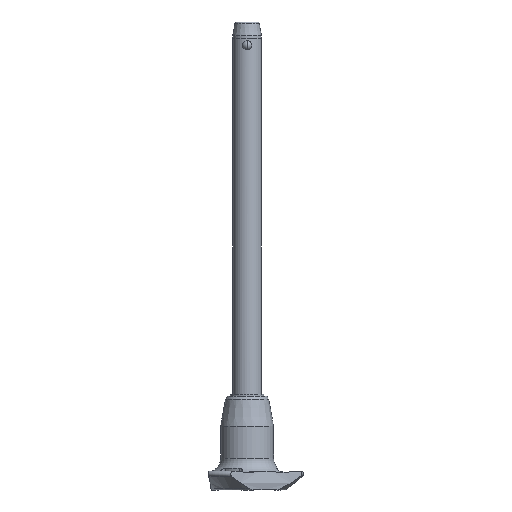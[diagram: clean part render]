
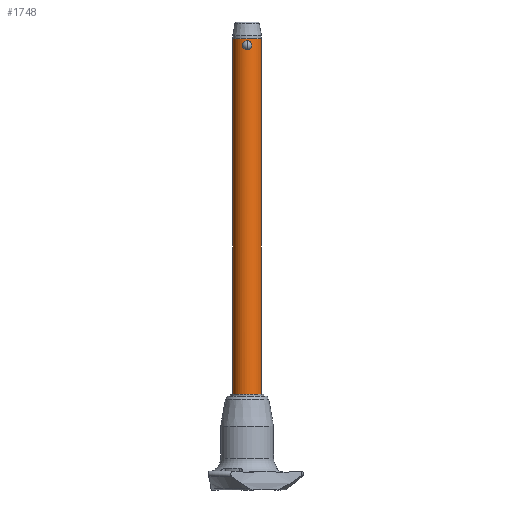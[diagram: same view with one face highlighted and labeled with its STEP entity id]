
A CAD part, front view. The second image highlights one B-rep face of the part: STEP entity #1748.
In plain terms, the highlighted cylindrical face has radius 5 mm (diameter 10 mm), a partial arc.
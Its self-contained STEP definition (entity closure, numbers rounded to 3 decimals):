
#22 = CARTESIAN_POINT ( 'NONE',  ( 0.7, -4.952, 2.888 ) ) ;
#41 = CARTESIAN_POINT ( 'NONE',  ( -0.208, -5., 3.033 ) ) ;
#72 = EDGE_LOOP ( 'NONE', ( #1115, #1305 ) ) ;
#91 = CARTESIAN_POINT ( 'NONE',  ( -0.965, -4.907, 2.738 ) ) ;
#93 = DIRECTION ( 'NONE',  ( 0., 0., 1. ) ) ;
#99 = AXIS2_PLACEMENT_3D ( 'NONE', #1899, #387, #146 ) ;
#125 = LINE ( 'NONE', #2321, #1054 ) ;
#146 = DIRECTION ( 'NONE',  ( 1., 0., 0. ) ) ;
#203 = CARTESIAN_POINT ( 'NONE',  ( 1.434, -4.79, 0.822 ) ) ;
#209 = VERTEX_POINT ( 'NONE', #1597 ) ;
#214 = CARTESIAN_POINT ( 'NONE',  ( 0.966, -4.907, 0.296 ) ) ;
#240 = EDGE_CURVE ( 'NONE', #765, #2242, #1568, .T. ) ;
#242 = CARTESIAN_POINT ( 'NONE',  ( 1.594, -4.739, 1.721 ) ) ;
#252 = CARTESIAN_POINT ( 'NONE',  ( 0., -5., 0. ) ) ;
#255 = VERTEX_POINT ( 'NONE', #252 ) ;
#256 = CARTESIAN_POINT ( 'NONE',  ( -0.699, -4.952, 0.145 ) ) ;
#262 = CIRCLE ( 'NONE', #1766, 5. ) ;
#275 = CARTESIAN_POINT ( 'NONE',  ( -1.604, -4.736, 1.724 ) ) ;
#287 = DIRECTION ( 'NONE',  ( 0., 0., 1. ) ) ;
#292 = CARTESIAN_POINT ( 'NONE',  ( -1.435, -4.79, 2.209 ) ) ;
#322 = CYLINDRICAL_SURFACE ( 'NONE', #2539, 5. ) ;
#336 = CARTESIAN_POINT ( 'NONE',  ( 0., 0., -120. ) ) ;
#387 = DIRECTION ( 'NONE',  ( 0., 0., -1. ) ) ;
#472 = CARTESIAN_POINT ( 'NONE',  ( 0.412, -4.987, 2.996 ) ) ;
#493 = CARTESIAN_POINT ( 'NONE',  ( -1.383, -4.805, 2.299 ) ) ;
#529 = CARTESIAN_POINT ( 'NONE',  ( -1.56, -4.751, 1.931 ) ) ;
#558 = EDGE_CURVE ( 'NONE', #765, #209, #833, .T. ) ;
#568 = CARTESIAN_POINT ( 'NONE',  ( 0., -5., 0. ) ) ;
#570 = EDGE_LOOP ( 'NONE', ( #1097, #2042, #1646, #1566 ) ) ;
#582 = DIRECTION ( 'NONE',  ( 0., 0., 1. ) ) ;
#654 = CARTESIAN_POINT ( 'NONE',  ( 1.272, -4.838, 2.47 ) ) ;
#662 = B_SPLINE_CURVE_WITH_KNOTS ( 'NONE', 3,
 ( #568, #2083, #1337, #1503, #1957, #214, #666, #1979, #1518, #1555, #203, #1528, #889, #1287, #242, #2809, #1297, #2370, #654, #1930, #2179, #2424, #22, #472, #2156, #1075 ),
 .UNSPECIFIED., .F., .F.,
 ( 4, 2, 2, 2, 2, 2, 2, 2, 2, 2, 2, 2, 4 ),
 ( 0.005, 0.006, 0.006, 0.006, 0.006, 0.007, 0.007, 0.008, 0.008, 0.009, 0.009, 0.009, 0.01 ),
 .UNSPECIFIED. ) ;
#666 = CARTESIAN_POINT ( 'NONE',  ( 1.047, -4.89, 0.356 ) ) ;
#687 = CARTESIAN_POINT ( 'NONE',  ( 5., 0., -120. ) ) ;
#742 = CARTESIAN_POINT ( 'NONE',  ( -0.7, -4.952, 2.888 ) ) ;
#765 = VERTEX_POINT ( 'NONE', #2707 ) ;
#768 = CARTESIAN_POINT ( 'NONE',  ( 0., -5., 3.033 ) ) ;
#833 = CIRCLE ( 'NONE', #99, 5. ) ;
#886 = EDGE_CURVE ( 'NONE', #1756, #255, #2218, .T. ) ;
#889 = CARTESIAN_POINT ( 'NONE',  ( 1.604, -4.736, 1.308 ) ) ;
#920 = CARTESIAN_POINT ( 'NONE',  ( -0.205, -5., 0. ) ) ;
#1024 = FACE_OUTER_BOUND ( 'NONE', #570, .T. ) ;
#1031 = CARTESIAN_POINT ( 'NONE',  ( 5., 0., 3.84 ) ) ;
#1054 = VECTOR ( 'NONE', #1694, 1000. ) ;
#1075 = CARTESIAN_POINT ( 'NONE',  ( 0., -5., 3.033 ) ) ;
#1097 = ORIENTED_EDGE ( 'NONE', *, *, #1463, .F. ) ;
#1115 = ORIENTED_EDGE ( 'NONE', *, *, #886, .F. ) ;
#1129 = CARTESIAN_POINT ( 'NONE',  ( -0.791, -4.938, 2.844 ) ) ;
#1146 = CARTESIAN_POINT ( 'NONE',  ( -1.197, -4.855, 2.539 ) ) ;
#1161 = CARTESIAN_POINT ( 'NONE',  ( -0.412, -4.987, 0.037 ) ) ;
#1200 = EDGE_CURVE ( 'NONE', #255, #1756, #662, .T. ) ;
#1222 = DIRECTION ( 'NONE',  ( 1., 0., 0. ) ) ;
#1287 = CARTESIAN_POINT ( 'NONE',  ( 1.604, -4.736, 1.619 ) ) ;
#1297 = CARTESIAN_POINT ( 'NONE',  ( 1.519, -4.764, 2.021 ) ) ;
#1305 = ORIENTED_EDGE ( 'NONE', *, *, #1200, .F. ) ;
#1337 = CARTESIAN_POINT ( 'NONE',  ( 0.412, -4.987, 0.037 ) ) ;
#1340 = CARTESIAN_POINT ( 'NONE',  ( -1.264, -4.838, 2.464 ) ) ;
#1356 = CARTESIAN_POINT ( 'NONE',  ( -1.594, -4.739, 1.312 ) ) ;
#1375 = CARTESIAN_POINT ( 'NONE',  ( -0.412, -4.987, 2.997 ) ) ;
#1390 = CARTESIAN_POINT ( 'NONE',  ( -1.519, -4.764, 1.013 ) ) ;
#1402 = CARTESIAN_POINT ( 'NONE',  ( 0., -5., 3.033 ) ) ;
#1418 = CARTESIAN_POINT ( 'NONE',  ( -5., 0., 3.84 ) ) ;
#1463 = EDGE_CURVE ( 'NONE', #209, #2074, #125, .T. ) ;
#1503 = CARTESIAN_POINT ( 'NONE',  ( 0.699, -4.952, 0.144 ) ) ;
#1518 = CARTESIAN_POINT ( 'NONE',  ( 1.265, -4.838, 0.57 ) ) ;
#1528 = CARTESIAN_POINT ( 'NONE',  ( 1.56, -4.751, 1.103 ) ) ;
#1555 = CARTESIAN_POINT ( 'NONE',  ( 1.384, -4.805, 0.735 ) ) ;
#1566 = ORIENTED_EDGE ( 'NONE', *, *, #2621, .F. ) ;
#1568 = LINE ( 'NONE', #687, #1736 ) ;
#1597 = CARTESIAN_POINT ( 'NONE',  ( -5., 0., -120. ) ) ;
#1619 = CARTESIAN_POINT ( 'NONE',  ( 0., -5., 0. ) ) ;
#1646 = ORIENTED_EDGE ( 'NONE', *, *, #240, .T. ) ;
#1694 = DIRECTION ( 'NONE',  ( 0., 0., 1. ) ) ;
#1736 = VECTOR ( 'NONE', #287, 1000. ) ;
#1748 = ADVANCED_FACE ( 'NONE', ( #1024, #1849 ), #322, .T. ) ;
#1756 = VERTEX_POINT ( 'NONE', #768 ) ;
#1766 = AXIS2_PLACEMENT_3D ( 'NONE', #2470, #582, #1222 ) ;
#1798 = CARTESIAN_POINT ( 'NONE',  ( -0.792, -4.938, 0.19 ) ) ;
#1849 = FACE_BOUND ( 'NONE', #72, .T. ) ;
#1899 = CARTESIAN_POINT ( 'NONE',  ( 0., 0., -120. ) ) ;
#1930 = CARTESIAN_POINT ( 'NONE',  ( 1.048, -4.889, 2.676 ) ) ;
#1957 = CARTESIAN_POINT ( 'NONE',  ( 0.792, -4.938, 0.19 ) ) ;
#1979 = CARTESIAN_POINT ( 'NONE',  ( 1.196, -4.855, 0.493 ) ) ;
#2011 = CARTESIAN_POINT ( 'NONE',  ( -1.272, -4.838, 0.564 ) ) ;
#2042 = ORIENTED_EDGE ( 'NONE', *, *, #558, .F. ) ;
#2074 = VERTEX_POINT ( 'NONE', #1418 ) ;
#2083 = CARTESIAN_POINT ( 'NONE',  ( 0.205, -5., 0. ) ) ;
#2156 = CARTESIAN_POINT ( 'NONE',  ( 0.208, -5., 3.033 ) ) ;
#2179 = CARTESIAN_POINT ( 'NONE',  ( 0.966, -4.907, 2.738 ) ) ;
#2218 = B_SPLINE_CURVE_WITH_KNOTS ( 'NONE', 3,
 ( #1402, #41, #1375, #742, #1129, #91, #2654, #1146, #1340, #493, #292, #529, #275, #2427, #1356, #2244, #1390, #2461, #2011, #2490, #2226, #1798, #256, #1161, #920, #1619 ),
 .UNSPECIFIED., .F., .F.,
 ( 4, 2, 2, 2, 2, 2, 2, 2, 2, 2, 2, 2, 4 ),
 ( 0., 0.001, 0.001, 0.001, 0.002, 0.002, 0.002, 0.003, 0.003, 0.004, 0.004, 0.004, 0.005 ),
 .UNSPECIFIED. ) ;
#2226 = CARTESIAN_POINT ( 'NONE',  ( -0.966, -4.907, 0.296 ) ) ;
#2242 = VERTEX_POINT ( 'NONE', #1031 ) ;
#2244 = CARTESIAN_POINT ( 'NONE',  ( -1.551, -4.753, 1.11 ) ) ;
#2321 = CARTESIAN_POINT ( 'NONE',  ( -5., 0., -120. ) ) ;
#2370 = CARTESIAN_POINT ( 'NONE',  ( 1.395, -4.802, 2.301 ) ) ;
#2424 = CARTESIAN_POINT ( 'NONE',  ( 0.792, -4.938, 2.844 ) ) ;
#2427 = CARTESIAN_POINT ( 'NONE',  ( -1.604, -4.736, 1.416 ) ) ;
#2461 = CARTESIAN_POINT ( 'NONE',  ( -1.394, -4.802, 0.731 ) ) ;
#2470 = CARTESIAN_POINT ( 'NONE',  ( 0., 0., 3.84 ) ) ;
#2490 = CARTESIAN_POINT ( 'NONE',  ( -1.047, -4.89, 0.357 ) ) ;
#2531 = DIRECTION ( 'NONE',  ( 1., 0., 0. ) ) ;
#2539 = AXIS2_PLACEMENT_3D ( 'NONE', #336, #93, #2531 ) ;
#2621 = EDGE_CURVE ( 'NONE', #2074, #2242, #262, .T. ) ;
#2654 = CARTESIAN_POINT ( 'NONE',  ( -1.047, -4.89, 2.676 ) ) ;
#2707 = CARTESIAN_POINT ( 'NONE',  ( 5., 0., -120. ) ) ;
#2809 = CARTESIAN_POINT ( 'NONE',  ( 1.551, -4.753, 1.922 ) ) ;
